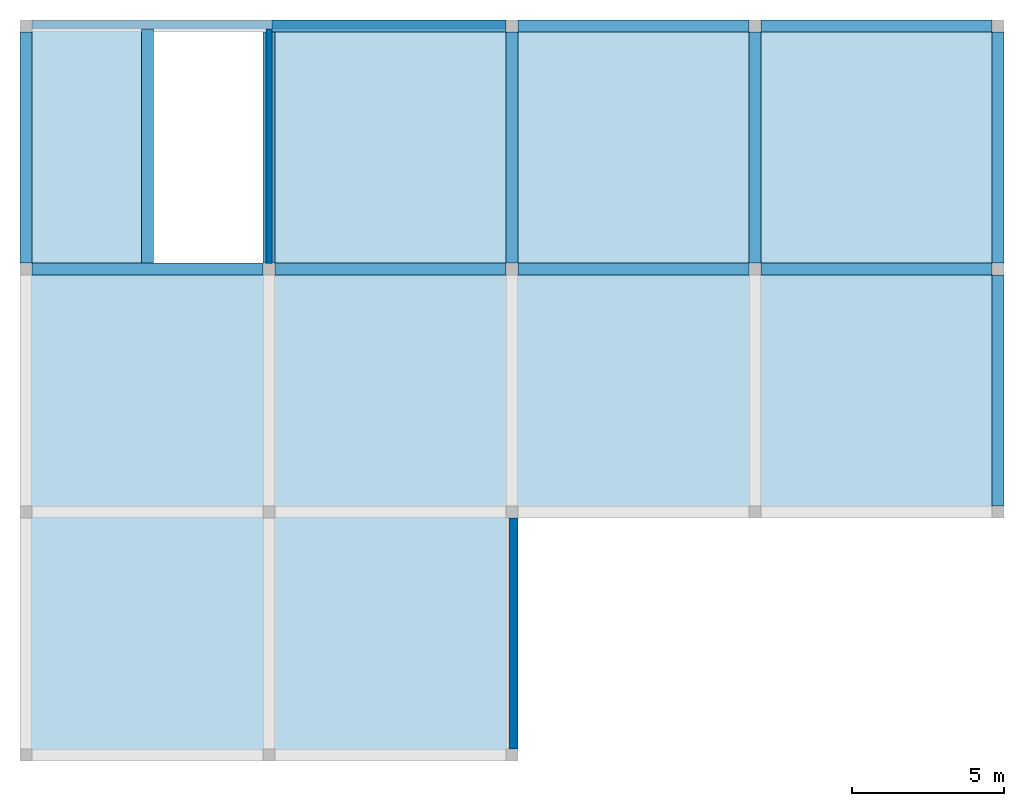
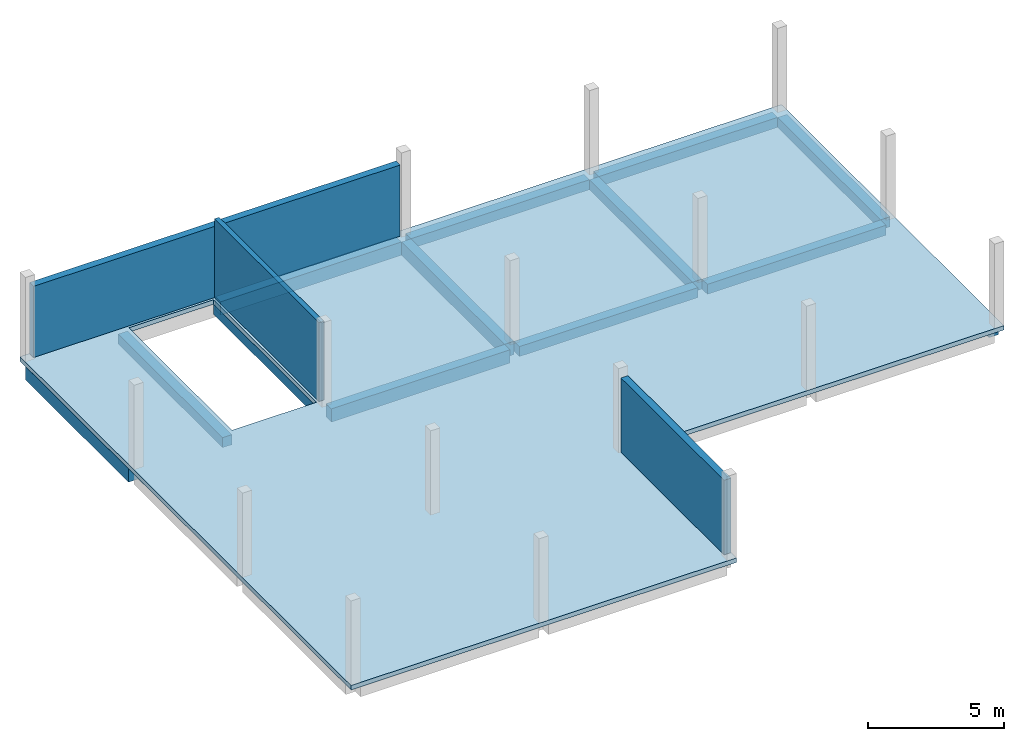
# One storey, part 2 of 3: 14 beams, 3 walls, 1 slab, 1 opening.
"""IFC4X3_ADD2 building model written with IfcOpenShell, lengths in millimetres."""

import ifcopenshell
import ifcopenshell.guid

model = None  # the IFC model being written
_history = None  # IfcOwnerHistory: only IFC2X3 demands one
_inside = {}  # id of a spatial element -> (the spatial element, [elements in it])
_under = {}  # id of a project, library or spatial element -> (it, [spatial elements below it])
_declared = {}  # id of a project -> (the project, [libraries it declares])
_typed = {}  # id of a type object -> (the type object, [elements of that type])
_made_of = {}  # id of a material, layer set ... -> (it, [elements and type objects made of it])


def new_model(schema):
    """Start an empty IFC model of exactly this schema.

    Asked for "IFC4X3", IfcOpenShell would pick the latest addendum, in which some entities
    have other attributes; the version numbers below select the first issue.
    IFC2X3 requires an IfcOwnerHistory on every rooted entity: one is made here for all.
    """
    global model, _history
    if schema == "IFC4X3":
        model = ifcopenshell.file(schema_version=(4, 3, 0, 0))
    else:
        model = ifcopenshell.file(schema=schema)
    _inside.clear()
    _under.clear()
    _declared.clear()
    _typed.clear()
    _made_of.clear()
    _history = None
    if model.schema == "IFC2X3":
        org = make("IfcOrganization", Name="unknown")
        user = make(
            "IfcPersonAndOrganization",
            ThePerson=make("IfcPerson", FamilyName="unknown"),
            TheOrganization=org,
        )
        app = make(
            "IfcApplication",
            ApplicationDeveloper=org,
            Version="unknown",
            ApplicationFullName="unknown",
            ApplicationIdentifier="unknown",
        )
        _history = make(
            "IfcOwnerHistory",
            OwningUser=user,
            OwningApplication=app,
            ChangeAction="ADDED",
            CreationDate=0,
        )
    return model


def make(cls, **values):
    """One entity of the class cls with the attributes given. An attribute that is None is left unset."""
    return model.create_entity(
        cls, **{name: value for name, value in values.items() if value is not None}
    )


def entity(cls, *values):
    """Any entity or typed value of the class cls, its attributes in the order of the schema. None: left unset."""
    e = model.create_entity(cls)
    for i, value in enumerate(values):
        if value is not None:
            e[i] = value
    return e


def rooted(cls, **values):
    """An entity with a GlobalId (a new one), such as an element, a storey or a relation."""
    return make(cls, GlobalId=ifcopenshell.guid.new(), OwnerHistory=_history, **values)


def si_unit(unit_type, name, prefix=None):
    """IfcSIUnit, for example si_unit("LENGTHUNIT", "METRE", prefix="MILLI")."""
    return make("IfcSIUnit", UnitType=unit_type, Prefix=prefix, Name=name)


def converted_unit(unit_type, name, factor, base, dimensions=None, offset=None):
    """IfcConversionBasedUnit, such as the inch: factor (a typed value) times the base unit."""
    return make(
        "IfcConversionBasedUnit"
        if offset is None
        else "IfcConversionBasedUnitWithOffset",
        ConversionOffset=offset,
        Dimensions=None
        if dimensions is None
        else entity("IfcDimensionalExponents", *dimensions),
        UnitType=unit_type,
        Name=name,
        ConversionFactor=make(
            "IfcMeasureWithUnit", ValueComponent=factor, UnitComponent=base
        ),
    )


def derived_unit(unit_type, elements):
    """IfcDerivedUnit: a product of units, each with its exponent."""
    return make(
        "IfcDerivedUnit",
        Elements=[
            make("IfcDerivedUnitElement", Unit=unit, Exponent=power)
            for unit, power in elements
        ],
        UnitType=unit_type,
    )


def assignment(units):
    """IfcUnitAssignment: the units of a project."""
    return None if units is None else make("IfcUnitAssignment", Units=units)


def point(xyz):
    """IfcCartesianPoint."""
    return None if xyz is None else make("IfcCartesianPoint", Coordinates=xyz)


def direction(xyz):
    """IfcDirection."""
    return None if xyz is None else make("IfcDirection", DirectionRatios=xyz)


def frame(location, z_axis=None, x_axis=None):
    """IfcAxis2Placement3D, a coordinate frame: its origin and axes. An axis left out is left unset."""
    return make(
        "IfcAxis2Placement3D",
        Location=point(location),
        Axis=direction(z_axis),
        RefDirection=direction(x_axis),
    )


def frame_2d(location, x_axis=None):
    """IfcAxis2Placement2D, a coordinate frame in the plane: its origin and x axis."""
    return make(
        "IfcAxis2Placement2D", Location=point(location), RefDirection=direction(x_axis)
    )


def origin():
    """The frame at (0, 0, 0) with its axes left unset."""
    return frame((0.0, 0.0, 0.0))


def origin_2d_with_axis():
    """The frame at (0, 0) in the plane with the x axis (1, 0) written out."""
    return frame_2d((0.0, 0.0), x_axis=(1.0, 0.0))


def place(relative_to, where):
    """IfcLocalPlacement: puts the frame where relative to a parent placement (None: the world)."""
    return make(
        "IfcLocalPlacement", PlacementRelTo=relative_to, RelativePlacement=where
    )


def context(
    kind, dimensions, precision=None, world=None, true_north=None, identifier=None
):
    """IfcGeometricRepresentationContext, for example the 3D "Model" context."""
    return make(
        "IfcGeometricRepresentationContext",
        ContextIdentifier=identifier,
        ContextType=kind,
        CoordinateSpaceDimension=dimensions,
        Precision=precision,
        WorldCoordinateSystem=world,
        TrueNorth=true_north,
    )


def subcontext(parent, identifier, kind, view, scale=None):
    """IfcGeometricRepresentationSubContext, for example "Body" below "Model"."""
    return make(
        "IfcGeometricRepresentationSubContext",
        ContextIdentifier=identifier,
        ContextType=kind,
        ParentContext=parent,
        TargetScale=scale,
        TargetView=view,
    )


def project(units=None, contexts=None):
    """IfcProject with its units and contexts."""
    return rooted(
        "IfcProject",
        Name="project",
        RepresentationContexts=contexts,
        UnitsInContext=assignment(units),
    )


def spatial(cls, under=None, at=None, **own):
    """A site, building, storey or space (cls), placed at a placement, below another one or the project."""
    s = rooted(cls, ObjectPlacement=at, **own)
    if under is not None:
        _under.setdefault(under.id(), (under, []))[1].append(s)
    return s


def polyline(points):
    """IfcPolyline through the points."""
    return make("IfcPolyline", Points=[point(p) for p in points])


def profile(cls, at=None, kind="AREA", **sizes):
    """A parametric profile (cls). Its sizes go by their IFC names, for example OverallWidth=200.0."""
    return make(cls, ProfileType=kind, Position=at, **sizes)


def rectangle(**sizes):
    """IfcRectangleProfileDef."""
    return profile("IfcRectangleProfileDef", **sizes)


def outline(outer, holes=None, kind="AREA"):
    """IfcArbitraryClosedProfileDef: a profile drawn as a closed curve; with holes, ...WithVoids."""
    if holes is None:
        return make("IfcArbitraryClosedProfileDef", ProfileType=kind, OuterCurve=outer)
    return make(
        "IfcArbitraryProfileDefWithVoids",
        ProfileType=kind,
        OuterCurve=outer,
        InnerCurves=holes,
    )


def extrude(swept, where, along, depth):
    """IfcExtrudedAreaSolid: the profile swept, set in the frame where, extruded along a direction by depth."""
    return make(
        "IfcExtrudedAreaSolid",
        SweptArea=swept,
        Position=where,
        ExtrudedDirection=direction(along),
        Depth=depth,
    )


def boolean(op, a, b):
    """IfcBooleanResult of two solids."""
    return make("IfcBooleanResult", Operator=op, FirstOperand=a, SecondOperand=b)


def shape(context_of_items, identifier, shape_type, items):
    """IfcShapeRepresentation: the items that make up one representation, for example the "Body"."""
    return make(
        "IfcShapeRepresentation",
        ContextOfItems=context_of_items,
        RepresentationIdentifier=identifier,
        RepresentationType=shape_type,
        Items=items,
    )


def source(mapping_origin, context_of_items, identifier, shape_type, items):
    """IfcRepresentationMap: a shape defined once, which mapped items show again and again."""
    return make(
        "IfcRepresentationMap",
        MappingOrigin=mapping_origin,
        MappedRepresentation=shape(context_of_items, identifier, shape_type, items),
    )


def transform(
    local_origin,
    x_axis=None,
    y_axis=None,
    z_axis=None,
    scale=None,
    scale2=None,
    scale3=None,
    uniform=True,
):
    """IfcCartesianTransformationOperator3D, or its non-uniform kind. x_axis, y_axis, z_axis: its Axis1, 2, 3."""
    if uniform:
        return make(
            "IfcCartesianTransformationOperator3D",
            Axis1=direction(x_axis),
            Axis2=direction(y_axis),
            LocalOrigin=point(local_origin),
            Scale=scale,
            Axis3=direction(z_axis),
        )
    return make(
        "IfcCartesianTransformationOperator3DnonUniform",
        Axis1=direction(x_axis),
        Axis2=direction(y_axis),
        LocalOrigin=point(local_origin),
        Scale=scale,
        Axis3=direction(z_axis),
        Scale2=scale2,
        Scale3=scale3,
    )


def mapped(mapping_source, mapping_target):
    """IfcMappedItem: shows the shape of a source again, moved by a transform."""
    return make(
        "IfcMappedItem", MappingSource=mapping_source, MappingTarget=mapping_target
    )


def material(Name=None, Category=None):
    """IfcMaterial."""
    return make("IfcMaterial", Name=Name, Category=Category)


def layer(
    of_material, thickness, ventilated=None, Name=None, Category=None, Priority=None
):
    """IfcMaterialLayer: one layer of a wall or slab, of a material (None: an air gap)."""
    return make(
        "IfcMaterialLayer",
        Material=of_material,
        LayerThickness=thickness,
        IsVentilated=ventilated,
        Name=Name,
        Category=Category,
        Priority=Priority,
    )


def layer_set(layers, Name=None):
    """IfcMaterialLayerSet."""
    return make("IfcMaterialLayerSet", MaterialLayers=layers, LayerSetName=Name)


def layer_usage(for_layer_set, set_direction, sense, offset, extent=None):
    """IfcMaterialLayerSetUsage: how a layer set lies in its element."""
    return make(
        "IfcMaterialLayerSetUsage",
        ForLayerSet=for_layer_set,
        LayerSetDirection=set_direction,
        DirectionSense=sense,
        OffsetFromReferenceLine=offset,
        ReferenceExtent=extent,
    )


def material_profile(
    of_material, cross_section, Name=None, Category=None, Priority=None
):
    """IfcMaterialProfile: a cross section and its material."""
    return make(
        "IfcMaterialProfile",
        Name=Name,
        Material=of_material,
        Profile=cross_section,
        Priority=Priority,
        Category=Category,
    )


def profile_set(profiles, Name=None, composite=None):
    """IfcMaterialProfileSet."""
    return make(
        "IfcMaterialProfileSet",
        Name=Name,
        MaterialProfiles=profiles,
        CompositeProfile=composite,
    )


def made_of(thing, what):
    """Note that an element or type object is made of a material, layer set ...; save() writes the relation."""
    if what is not None:
        _made_of.setdefault(what.id(), (what, []))[1].append(thing)
    return thing


def type_object(cls, material=None, **own):
    """A type object (cls), such as IfcWallType, which elements share."""
    return made_of(rooted(cls, **own), material)


def type_shapes(of_type, sources):
    """Give a type object the sources (RepresentationMaps) that its elements show as mapped items."""
    of_type.RepresentationMaps = sources


def element(
    cls,
    number,
    at=None,
    inside=None,
    cuts=None,
    type_object=None,
    material=None,
    context=None,
    identifier="Body",
    shape_type=None,
    held_by="IfcProductDefinitionShape",
    body=None,
    shapes=None,
    **own,
):
    """One element of the class cls, such as IfcWall. Its Tag is "e" and its number.

    at: its placement. inside: the storey or other place that contains it. cuts: it is an
    opening in that element (IfcRelVoidsElement). A single representation is given by context,
    identifier, shape_type and body (its items); several are given by shapes. held_by: the class
    of the entity that holds the representations. save() writes the other relations.
    """
    e = rooted(cls, Tag="e%d" % number, ObjectPlacement=at, **own)
    if body is not None:
        shapes = [shape(context, identifier, shape_type, body)]
    if shapes is not None:
        e.Representation = make(held_by, Representations=shapes)
    if inside is not None:
        _inside.setdefault(inside.id(), (inside, []))[1].append(e)
    if cuts is not None:
        rooted(
            "IfcRelVoidsElement", RelatingBuildingElement=cuts, RelatedOpeningElement=e
        )
    if type_object is not None:
        _typed.setdefault(type_object.id(), (type_object, []))[1].append(e)
    return made_of(e, material)


def aggregate(whole, parts):
    """IfcRelAggregates: a whole, such as a stair, and the parts it consists of."""
    return rooted("IfcRelAggregates", RelatingObject=whole, RelatedObjects=parts)


def save(model, path):
    """Write the relations noted so far, then the file.

    IfcRelAggregates (storeys below a building ...), IfcRelContainedInSpatialStructure (elements
    in a storey), IfcRelDefinesByType, IfcRelAssociatesMaterial and IfcRelDeclares: one each for
    every whole, place, type object, material and project.
    """
    for whole, parts in _under.values():
        aggregate(whole, parts)
    for where, things in _inside.values():
        rooted(
            "IfcRelContainedInSpatialStructure",
            RelatedElements=things,
            RelatingStructure=where,
        )
    for kind, things in _typed.values():
        rooted("IfcRelDefinesByType", RelatedObjects=things, RelatingType=kind)
    for what, things in _made_of.values():
        rooted("IfcRelAssociatesMaterial", RelatedObjects=things, RelatingMaterial=what)
    for by, libraries in _declared.values():
        rooted("IfcRelDeclares", RelatingContext=by, RelatedDefinitions=libraries)
    model.write(path)


model = new_model("IFC4X3_ADD2")

# Units and contexts
model_context = context("Model", 3, precision=0.01, world=origin(), true_north=direction((6.123233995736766e-17, 1.0)))
plan_context = context("Plan", 3, precision=0.01, world=origin(), true_north=direction((6.123233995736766e-17, 1.0)))
body_context = subcontext(model_context, "Body", "Model", "MODEL_VIEW")
ifc_project = project(units=[si_unit("LENGTHUNIT", "METRE", prefix="MILLI"), converted_unit("PLANEANGLEUNIT", "DEGREE", entity("IfcPlaneAngleMeasure", 0.017453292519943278), si_unit("PLANEANGLEUNIT", "RADIAN"), dimensions=[0, 0, 0, 0, 0, 0, 0]), si_unit("AREAUNIT", "SQUARE_METRE"), si_unit("VOLUMEUNIT", "CUBIC_METRE"), derived_unit("THERMALTRANSMITTANCEUNIT", [(si_unit("MASSUNIT", "GRAM", prefix="KILO"), 1), (si_unit("THERMODYNAMICTEMPERATUREUNIT", "KELVIN"), -1), (si_unit("TIMEUNIT", "SECOND"), -3)]), derived_unit("USERDEFINED", [(si_unit("MASSUNIT", "GRAM", prefix="KILO"), 1), (si_unit("THERMODYNAMICTEMPERATUREUNIT", "KELVIN"), -1), (si_unit("TIMEUNIT", "SECOND"), -2)]), derived_unit("THERMALRESISTANCEUNIT", [(si_unit("MASSUNIT", "GRAM", prefix="KILO"), -1), (si_unit("TIMEUNIT", "SECOND"), 3), (si_unit("THERMODYNAMICTEMPERATUREUNIT", "KELVIN"), 1)]), si_unit("PRESSUREUNIT", "PASCAL"), derived_unit("MASSDENSITYUNIT", [(si_unit("MASSUNIT", "GRAM", prefix="KILO"), 1), (si_unit("LENGTHUNIT", "METRE"), -3)]), derived_unit("MODULUSOFELASTICITYUNIT", [(si_unit("MASSUNIT", "GRAM", prefix="KILO"), 1), (si_unit("TIMEUNIT", "SECOND"), -2), (si_unit("LENGTHUNIT", "METRE"), -1)]), derived_unit("THERMALEXPANSIONCOEFFICIENTUNIT", [(si_unit("THERMODYNAMICTEMPERATUREUNIT", "KELVIN"), -1)]), derived_unit("VAPORPERMEABILITYUNIT", [(si_unit("LENGTHUNIT", "METRE"), -1), (si_unit("TIMEUNIT", "SECOND"), 1)]), derived_unit("USERDEFINED", [(si_unit("MASSUNIT", "GRAM", prefix="KILO"), 1), (si_unit("TIMEUNIT", "SECOND"), -3), (si_unit("LENGTHUNIT", "METRE"), 3), (si_unit("ELECTRICCURRENTUNIT", "AMPERE"), -2)]), derived_unit("SPECIFICHEATCAPACITYUNIT", [(si_unit("THERMODYNAMICTEMPERATUREUNIT", "KELVIN"), -1), (si_unit("TIMEUNIT", "SECOND"), -2), (si_unit("LENGTHUNIT", "METRE"), 2)]), derived_unit("THERMALCONDUCTANCEUNIT", [(si_unit("MASSUNIT", "GRAM", prefix="KILO"), 1), (si_unit("THERMODYNAMICTEMPERATUREUNIT", "KELVIN"), -1), (si_unit("TIMEUNIT", "SECOND"), -3), (si_unit("LENGTHUNIT", "METRE"), 1)])], contexts=[model_context, plan_context])

# Site, building, storey
site_placement = place(None, origin())
site = spatial("IfcSite", under=ifc_project, at=site_placement, Name="Default", CompositionType="ELEMENT")
building_placement = place(site_placement, origin())
building = spatial("IfcBuilding", under=site, at=building_placement, Name="Building Name", CompositionType="ELEMENT")
storey_placement = place(building_placement, frame((0.0, 0.0, 8000.0)))
storey = spatial("IfcBuildingStorey", under=building, at=storey_placement, Name="L3", CompositionType="ELEMENT", Elevation=8000.000000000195)

# Beams
ifc_material_1 = material(Name="Concrete - Cast-in-Place Concrete", Category="Concrete")
ifc_material_profile_1 = material_profile(ifc_material_1, rectangle(XDim=600.0, YDim=400.0000000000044, at=frame_2d((-1.0942358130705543e-12, 2.842170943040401e-14), x_axis=(0.0, 1.0))), Name="400 x 600mm")
ifc_profile_set_1 = profile_set([ifc_material_profile_1], Name="400 x 600mm")
beam_type_1 = type_object("IfcBeamType", Name="Concrete - Rectangular Beam:400 x 600mm", PredefinedType="BEAM", material=ifc_profile_set_1)
shared_shape_1 = source(origin(), body_context, "Body", "SweptSolid", [
    extrude(rectangle(XDim=600.0, YDim=400.00000000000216, at=frame_2d((-1.0942358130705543e-12, 1.0800249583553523e-12), x_axis=(0.0, 1.0))), frame((-12967.95123677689, 11896.696870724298, 7500.0), z_axis=(0.0, -1.0, 0.0), x_axis=(-1.0, 0.0, 0.0)), (0.0, 0.0, 1.0), 7600.000000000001),
])
type_shapes(beam_type_1, [shared_shape_1])
beam_1_placement = place(storey_placement, frame((0.0, 0.0, -8000.0)))
element("IfcBeam", 1, at=beam_1_placement, inside=storey, type_object=beam_type_1, Name="Concrete - Rectangular Beam:400 x 600mm", ObjectType="Concrete - Rectangular Beam:400 x 600mm", PredefinedType="BEAM", context=body_context, shape_type="MappedRepresentation", body=[
    mapped(shared_shape_1, transform((0.0, 0.0, 0.0), scale=1.0)),
])
beam_type_2 = type_object("IfcBeamType", Name="Concrete - Rectangular Beam:400 x 600mm", PredefinedType="BEAM", material=ifc_profile_set_1)
shared_shape_2 = source(origin(), body_context, "Body", "SweptSolid", [
    extrude(rectangle(XDim=600.0, YDim=400.0000000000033, at=frame_2d((-5.400124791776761e-13, 1.0800249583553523e-12), x_axis=(0.0, 1.0))), frame((3032.0487632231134, 11896.696870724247, 7500.0), z_axis=(0.0, -1.0, 0.0), x_axis=(-1.0, 0.0, 0.0)), (0.0, 0.0, 1.0), 7600.000000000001),
])
type_shapes(beam_type_2, [shared_shape_2])
beam_2_placement = place(storey_placement, frame((0.0, 0.0, -8000.0)))
element("IfcBeam", 2, at=beam_2_placement, inside=storey, type_object=beam_type_2, Name="Concrete - Rectangular Beam:400 x 600mm", ObjectType="Concrete - Rectangular Beam:400 x 600mm", PredefinedType="BEAM", context=body_context, shape_type="MappedRepresentation", body=[
    mapped(shared_shape_2, transform((0.0, 0.0, 0.0), scale=1.0)),
])
ifc_material_profile_2 = material_profile(ifc_material_1, rectangle(XDim=450.0, YDim=400.00000000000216, at=frame_2d((-1.0942358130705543e-12, 2.7000623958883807e-13), x_axis=(0.0, 1.0))), Name="400 x 450mm")
ifc_profile_set_2 = profile_set([ifc_material_profile_2], Name="400 x 450mm")
beam_type_3 = type_object("IfcBeamType", Name="Concrete - Rectangular Beam:400 x 450mm", PredefinedType="BEAM", material=ifc_profile_set_2)
shared_shape_3 = source(origin(), body_context, "Body", "SweptSolid", [
    extrude(rectangle(XDim=449.9999999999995, YDim=400.00000000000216, at=frame_2d((-1.0942358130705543e-12, 1.0800249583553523e-12), x_axis=(0.0, 1.0))), frame((11032.048763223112, 11896.696870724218, 7575.0), z_axis=(0.0, -1.0, 0.0), x_axis=(-1.0, 0.0, 0.0)), (0.0, 0.0, 1.0), 7599.999999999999),
])
type_shapes(beam_type_3, [shared_shape_3])
beam_3_placement = place(storey_placement, frame((0.0, 0.0, -8000.0)))
element("IfcBeam", 3, at=beam_3_placement, inside=storey, type_object=beam_type_3, Name="Concrete - Rectangular Beam:400 x 450mm", ObjectType="Concrete - Rectangular Beam:400 x 450mm", PredefinedType="BEAM", context=body_context, shape_type="MappedRepresentation", body=[
    mapped(shared_shape_3, transform((0.0, 0.0, 0.0), scale=1.0)),
])
beam_type_4 = type_object("IfcBeamType", Name="Concrete - Rectangular Beam:400 x 450mm", PredefinedType="BEAM", material=ifc_profile_set_2)
shared_shape_4 = source(origin(), body_context, "Body", "SweptSolid", [
    extrude(rectangle(XDim=449.9999999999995, YDim=400.00000000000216, at=frame_2d((-1.0942358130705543e-12, 1.0800249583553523e-12), x_axis=(0.0, 1.0))), frame((19032.048763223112, 11896.696870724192, 7575.0), z_axis=(0.0, -1.0, 0.0), x_axis=(-1.0, 0.0, 0.0)), (0.0, 0.0, 1.0), 7599.999999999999),
])
type_shapes(beam_type_4, [shared_shape_4])
beam_4_placement = place(storey_placement, frame((0.0, 0.0, -8000.0)))
element("IfcBeam", 4, at=beam_4_placement, inside=storey, type_object=beam_type_4, Name="Concrete - Rectangular Beam:400 x 450mm", ObjectType="Concrete - Rectangular Beam:400 x 450mm", PredefinedType="BEAM", context=body_context, shape_type="MappedRepresentation", body=[
    mapped(shared_shape_4, transform((0.0, 0.0, 0.0), scale=1.0)),
])
beam_type_5 = type_object("IfcBeamType", Name="Concrete - Rectangular Beam:400 x 450mm", PredefinedType="BEAM", material=ifc_profile_set_2)
shared_shape_5 = source(origin(), body_context, "Body", "SweptSolid", [
    extrude(rectangle(XDim=449.9999999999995, YDim=400.00000000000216, at=frame_2d((-1.0942358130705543e-12, 1.0800249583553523e-12), x_axis=(0.0, 1.0))), frame((19032.048763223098, 3896.6968707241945, 7575.0), z_axis=(0.0, -1.0, 0.0), x_axis=(-1.0, 0.0, 0.0)), (0.0, 0.0, 1.0), 7600.000000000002),
])
type_shapes(beam_type_5, [shared_shape_5])
beam_5_placement = place(storey_placement, frame((0.0, 0.0, -8000.0)))
element("IfcBeam", 5, at=beam_5_placement, inside=storey, type_object=beam_type_5, Name="Concrete - Rectangular Beam:400 x 450mm", ObjectType="Concrete - Rectangular Beam:400 x 450mm", PredefinedType="BEAM", context=body_context, shape_type="MappedRepresentation", body=[
    mapped(shared_shape_5, transform((0.0, 0.0, 0.0), scale=1.0)),
])
beam_type_6 = type_object("IfcBeamType", Name="Concrete - Rectangular Beam:400 x 450mm", PredefinedType="BEAM", material=ifc_profile_set_2)
shared_shape_6 = source(origin(), body_context, "Body", "SweptSolid", [
    extrude(rectangle(XDim=449.9999999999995, YDim=400.0000000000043, at=frame_2d((0.0, -1.0800249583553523e-12), x_axis=(1.0, 0.0))), frame((3232.0487632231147, 12096.696870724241, 7575.0), z_axis=(1.0, 0.0, 0.0), x_axis=(0.0, 0.0, -1.0)), (0.0, 0.0, 1.0), 7600.000000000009),
])
type_shapes(beam_type_6, [shared_shape_6])
beam_6_placement = place(storey_placement, frame((0.0, 0.0, -8000.0)))
element("IfcBeam", 6, at=beam_6_placement, inside=storey, type_object=beam_type_6, Name="Concrete - Rectangular Beam:400 x 450mm", ObjectType="Concrete - Rectangular Beam:400 x 450mm", PredefinedType="BEAM", context=body_context, shape_type="MappedRepresentation", body=[
    mapped(shared_shape_6, transform((0.0, 0.0, 0.0), scale=1.0)),
])
beam_type_7 = type_object("IfcBeamType", Name="Concrete - Rectangular Beam:400 x 450mm", PredefinedType="BEAM", material=ifc_profile_set_2)
shared_shape_7 = source(origin(), body_context, "Body", "SweptSolid", [
    extrude(rectangle(XDim=449.9999999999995, YDim=400.0000000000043, at=frame_2d((0.0, -1.0800249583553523e-12), x_axis=(1.0, 0.0))), frame((11232.048763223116, 12096.696870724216, 7575.0), z_axis=(1.0, 0.0, 0.0), x_axis=(0.0, 0.0, -1.0)), (0.0, 0.0, 1.0), 7600.00000000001),
])
type_shapes(beam_type_7, [shared_shape_7])
beam_7_placement = place(storey_placement, frame((0.0, 0.0, -8000.0)))
element("IfcBeam", 7, at=beam_7_placement, inside=storey, type_object=beam_type_7, Name="Concrete - Rectangular Beam:400 x 450mm", ObjectType="Concrete - Rectangular Beam:400 x 450mm", PredefinedType="BEAM", context=body_context, shape_type="MappedRepresentation", body=[
    mapped(shared_shape_7, transform((0.0, 0.0, 0.0), scale=1.0)),
])
beam_type_8 = type_object("IfcBeamType", Name="Concrete - Rectangular Beam:400 x 450mm", PredefinedType="BEAM", material=ifc_profile_set_2)
shared_shape_8 = source(origin(), body_context, "Body", "SweptSolid", [
    extrude(rectangle(XDim=449.9999999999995, YDim=400.0000000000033, at=origin_2d_with_axis()), frame((3232.048763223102, 4096.696870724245, 7575.0), z_axis=(1.0, 0.0, 0.0), x_axis=(0.0, 0.0, -1.0)), (0.0, 0.0, 1.0), 7600.000000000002),
])
type_shapes(beam_type_8, [shared_shape_8])
beam_8_placement = place(storey_placement, frame((0.0, 0.0, -8000.0)))
element("IfcBeam", 8, at=beam_8_placement, inside=storey, type_object=beam_type_8, Name="Concrete - Rectangular Beam:400 x 450mm", ObjectType="Concrete - Rectangular Beam:400 x 450mm", PredefinedType="BEAM", context=body_context, shape_type="MappedRepresentation", body=[
    mapped(shared_shape_8, transform((0.0, 0.0, 0.0), scale=1.0)),
])
beam_type_9 = type_object("IfcBeamType", Name="Concrete - Rectangular Beam:400 x 450mm", PredefinedType="BEAM", material=ifc_profile_set_2)
shared_shape_9 = source(origin(), body_context, "Body", "SweptSolid", [
    extrude(rectangle(XDim=449.9999999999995, YDim=400.0000000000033, at=origin_2d_with_axis()), frame((11232.048763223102, 4096.696870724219, 7575.0), z_axis=(1.0, 0.0, 0.0), x_axis=(0.0, 0.0, -1.0)), (0.0, 0.0, 1.0), 7600.000000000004),
])
type_shapes(beam_type_9, [shared_shape_9])
beam_9_placement = place(storey_placement, frame((0.0, 0.0, -8000.0)))
element("IfcBeam", 9, at=beam_9_placement, inside=storey, type_object=beam_type_9, Name="Concrete - Rectangular Beam:400 x 450mm", ObjectType="Concrete - Rectangular Beam:400 x 450mm", PredefinedType="BEAM", context=body_context, shape_type="MappedRepresentation", body=[
    mapped(shared_shape_9, transform((0.0, 0.0, 0.0), scale=1.0)),
])
beam_type_10 = type_object("IfcBeamType", Name="Concrete - Rectangular Beam:400 x 600mm", PredefinedType="BEAM", material=ifc_profile_set_1)
shared_shape_10 = source(origin(), body_context, "Body", "SweptSolid", [
    extrude(rectangle(XDim=600.0, YDim=400.0000000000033, at=origin_2d_with_axis()), frame((-12767.9512367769, 4096.696870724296, 7500.0), z_axis=(1.0, 0.0, 0.0), x_axis=(0.0, 0.0, -1.0)), (0.0, 0.0, 1.0), 7600.000000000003),
])
type_shapes(beam_type_10, [shared_shape_10])
beam_10_placement = place(storey_placement, frame((0.0, 0.0, -8000.0)))
element("IfcBeam", 10, at=beam_10_placement, inside=storey, type_object=beam_type_10, Name="Concrete - Rectangular Beam:400 x 600mm", ObjectType="Concrete - Rectangular Beam:400 x 600mm", PredefinedType="BEAM", context=body_context, shape_type="MappedRepresentation", body=[
    mapped(shared_shape_10, transform((0.0, 0.0, 0.0), scale=1.0)),
])
beam_type_11 = type_object("IfcBeamType", Name="Concrete - Rectangular Beam:400 x 600mm", PredefinedType="BEAM", material=ifc_profile_set_1)
shared_shape_11 = source(origin(), body_context, "Body", "SweptSolid", [
    extrude(rectangle(XDim=600.0, YDim=400.0000000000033, at=origin_2d_with_axis()), frame((-4767.951236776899, 4096.69687072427, 7500.0), z_axis=(1.0, 0.0, 0.0), x_axis=(0.0, 0.0, -1.0)), (0.0, 0.0, 1.0), 7600.000000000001),
])
type_shapes(beam_type_11, [shared_shape_11])
beam_11_placement = place(storey_placement, frame((0.0, 0.0, -8000.0)))
element("IfcBeam", 11, at=beam_11_placement, inside=storey, type_object=beam_type_11, Name="Concrete - Rectangular Beam:400 x 600mm", ObjectType="Concrete - Rectangular Beam:400 x 600mm", PredefinedType="BEAM", context=body_context, shape_type="MappedRepresentation", body=[
    mapped(shared_shape_11, transform((0.0, 0.0, 0.0), scale=1.0)),
])
beam_type_12 = type_object("IfcBeamType", Name="Concrete - Rectangular Beam:400 x 450mm", PredefinedType="BEAM", material=ifc_profile_set_2)
shared_shape_12 = source(origin(), body_context, "Body", "SweptSolid", [
    extrude(rectangle(XDim=449.9999999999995, YDim=400.0000000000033, at=frame_2d((-5.400124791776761e-13, 0.0), x_axis=(0.0, 1.0))), frame((-8967.951236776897, 4296.6968707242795, 7575.0), z_axis=(0.0, 1.0, 0.0), x_axis=(-1.0, 0.0, 0.0)), (0.0, 0.0, 1.0), 7700.000000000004),
])
type_shapes(beam_type_12, [shared_shape_12])
beam_12_placement = place(storey_placement, frame((0.0, 0.0, -8000.0)))
element("IfcBeam", 12, at=beam_12_placement, inside=storey, type_object=beam_type_12, Name="Concrete - Rectangular Beam:400 x 450mm", ObjectType="Concrete - Rectangular Beam:400 x 450mm", PredefinedType="BEAM", context=body_context, shape_type="MappedRepresentation", body=[
    mapped(shared_shape_12, transform((0.0, 0.0, 0.0), scale=1.0)),
])
beam_type_13 = type_object("IfcBeamType", Name="Concrete - Rectangular Beam:400 x 600mm", PredefinedType="BEAM", material=ifc_profile_set_1)
shared_shape_13 = source(origin(), body_context, "Body", "SweptSolid", [
    extrude(rectangle(XDim=600.0, YDim=400.00000000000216, at=frame_2d((0.0, 1.0942358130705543e-12), x_axis=(1.0, 0.0))), frame((-4867.951236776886, 12096.696870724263, 7500.0), z_axis=(1.0, 0.0, 0.0), x_axis=(0.0, 0.0, -1.0)), (0.0, 0.0, 1.0), 7700.000000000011),
])
type_shapes(beam_type_13, [shared_shape_13])
beam_13_placement = place(storey_placement, frame((0.0, 0.0, -8000.0)))
element("IfcBeam", 13, at=beam_13_placement, inside=storey, type_object=beam_type_13, Name="Concrete - Rectangular Beam:400 x 600mm", ObjectType="Concrete - Rectangular Beam:400 x 600mm", PredefinedType="BEAM", context=body_context, shape_type="MappedRepresentation", body=[
    mapped(shared_shape_13, transform((0.0, 0.0, 0.0), scale=1.0)),
])
beam_type_14 = type_object("IfcBeamType", Name="Concrete - Rectangular Beam:400 x 450mm", PredefinedType="BEAM", material=ifc_profile_set_2)
shared_shape_14 = source(origin(), body_context, "Body", "SweptSolid", [
    extrude(outline(polyline([(100.0, -162.4999999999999), (200.0, -162.4999999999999), (200.0, 287.4999999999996), (-200.0, 287.4999999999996), (-200.0, -162.4999999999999), (-100.0, -162.4999999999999), (-100.0, 37.5000000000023), (100.0, 37.5000000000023), (100.0, -162.4999999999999)])), frame((-4967.951236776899, 4296.69687072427, 7512.499999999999), z_axis=(0.0, 1.0, 0.0), x_axis=(-1.0, 0.0, 0.0)), (0.0, 0.0, 1.0), 7599.999999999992),
])
type_shapes(beam_type_14, [shared_shape_14])
beam_14_placement = place(storey_placement, frame((0.0, 0.0, -8000.0)))
element("IfcBeam", 14, at=beam_14_placement, inside=storey, type_object=beam_type_14, Name="Concrete - Rectangular Beam:400 x 450mm", ObjectType="Concrete - Rectangular Beam:400 x 450mm", PredefinedType="BEAM", context=body_context, shape_type="MappedRepresentation", body=[
    mapped(shared_shape_14, transform((0.0, 0.0, 0.0), scale=1.0)),
])

# Slab, opening
ifc_material_2 = material(Name="Default Floor", Category="Miscellaneous")
ifc_layer_1 = layer(ifc_material_2, 200.0, Name="Layer", Category="Miscellaneous")
ifc_layer_set_1 = layer_set([ifc_layer_1], Name="Floor:Generic 200mm")
ifc_layer_usage = layer_usage(ifc_layer_set_1, "AXIS3", "POSITIVE", 0.0)
slab_type = type_object("IfcSlabType", Name="Floor:Generic 200mm", PredefinedType="FLOOR", material=ifc_layer_set_1)
slab_placement = place(storey_placement, origin())
slab = element("IfcSlab", 15, at=slab_placement, inside=storey, type_object=slab_type, material=ifc_layer_usage, Name="Floor:Generic 200mm", ObjectType="Floor:Generic 200mm", PredefinedType="FLOOR", context=body_context, shape_type="SweptSolid", body=[
    boolean("DIFFERENCE", extrude(outline(polyline([(-10800.0, -16266.66666666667), (13600.0, -16266.66666666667), (13600.0, 16133.333333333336), (-2800.0, 16133.33333333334), (-2800.0, 133.3333333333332), (-10800.0, 133.33333333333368), (-10800.0, -16266.66666666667)])), frame((3098.715429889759, -1303.3031292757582, 0.0), z_axis=(0.0, 0.0, -1.0), x_axis=(0.0, 1.0, 0.0)), (0.0, 0.0, 1.0), 200.0), extrude(rectangle(XDim=7600.000000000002, YDim=3599.999999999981, at=frame_2d((-4.547473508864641e-13, 0.0), x_axis=(1.0, 0.0))), frame((-6967.95123677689, 8096.696870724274, -200.0), z_axis=(0.0, 0.0, 1.0), x_axis=(0.0, 1.0, 0.0)), (0.0, 0.0, 1.0), 200.0)),
])
opening_placement = place(slab_placement, origin())
element("IfcOpeningElement", 16, at=opening_placement, cuts=slab, Name="Floor:Generic 200mm", PredefinedType="OPENING", context=body_context, shape_type="SweptSolid", body=[
    extrude(rectangle(XDim=7600.000000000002, YDim=3599.999999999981, at=frame_2d((4.547473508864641e-13, 0.0), x_axis=(1.0, 0.0))), frame((-6967.95123677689, 8096.696870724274, 0.0), z_axis=(0.0, 0.0, -1.0), x_axis=(0.0, -1.0, 0.0)), (0.0, 0.0, 1.0), 200.0),
])

# Walls
ifc_material_3 = material(Name="Default Wall", Category="Miscellaneous")
ifc_layer_2 = layer(ifc_material_3, 300.0, Name="Layer", Category="Miscellaneous")
ifc_layer_set_2 = layer_set([ifc_layer_2], Name="Basic Wall:Generic - 300mm")
wall_type_1 = type_object("IfcWallType", Name="Basic Wall:Generic - 300mm", PredefinedType="STANDARD", material=ifc_layer_set_2)
wall_1_placement = place(storey_placement, frame((3082.0487632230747, -11703.303129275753, 0.0), z_axis=(0.0, 0.0, 1.0), x_axis=(0.0, 1.0, 0.0)))
element("IfcWall", 17, at=wall_1_placement, inside=storey, type_object=wall_type_1, material=ifc_layer_set_2, Name="Basic Wall:Generic - 300mm", ObjectType="Basic Wall:Generic - 300mm", PredefinedType="NOTDEFINED", context=body_context, shape_type="SweptSolid", body=[
    extrude(rectangle(XDim=7599.999999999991, YDim=300.0, at=frame_2d((3799.9999999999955, 2.2737367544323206e-13), x_axis=(-1.0, 0.0))), origin(), (0.0, 0.0, 1.0), 3349.9999999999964),
])
wall_2_placement = place(storey_placement, frame((-12767.951236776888, 12146.696870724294, 0.0)))
element("IfcWall", 18, at=wall_2_placement, inside=storey, type_object=wall_type_1, material=ifc_layer_set_2, Name="Basic Wall:Generic - 300mm", ObjectType="Basic Wall:Generic - 300mm", PredefinedType="NOTDEFINED", context=body_context, shape_type="SweptSolid", body=[
    extrude(rectangle(XDim=15600.000000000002, YDim=300.00000000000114, at=frame_2d((7800.000000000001, 1.0516032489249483e-12), x_axis=(-1.0, 0.0))), origin(), (0.0, 0.0, 1.0), 3199.999999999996),
])
ifc_layer_3 = layer(ifc_material_3, 200.0, Name="Layer", Category="Miscellaneous")
ifc_layer_set_3 = layer_set([ifc_layer_3], Name="Basic Wall:Generic - 200mm")
wall_type_2 = type_object("IfcWallType", Name="Basic Wall:Generic - 200mm", PredefinedType="STANDARD", material=ifc_layer_set_3)
wall_3_placement = place(storey_placement, frame((-4967.951236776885, 11996.696870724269, 0.0), z_axis=(0.0, 0.0, 1.0), x_axis=(0.0, -1.0, 0.0)))
element("IfcWall", 19, at=wall_3_placement, inside=storey, type_object=wall_type_2, material=ifc_layer_set_3, Name="Basic Wall:Generic - 200mm", ObjectType="Basic Wall:Generic - 200mm", PredefinedType="NOTDEFINED", context=body_context, shape_type="SweptSolid", body=[
    extrude(rectangle(XDim=7709.999999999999, YDim=200.00000000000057, at=frame_2d((3854.9999999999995, 3.552713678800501e-14), x_axis=(-1.0, 0.0))), origin(), (0.0, 0.0, 1.0), 3549.9999999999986),
])

save(model, "model.ifc")
